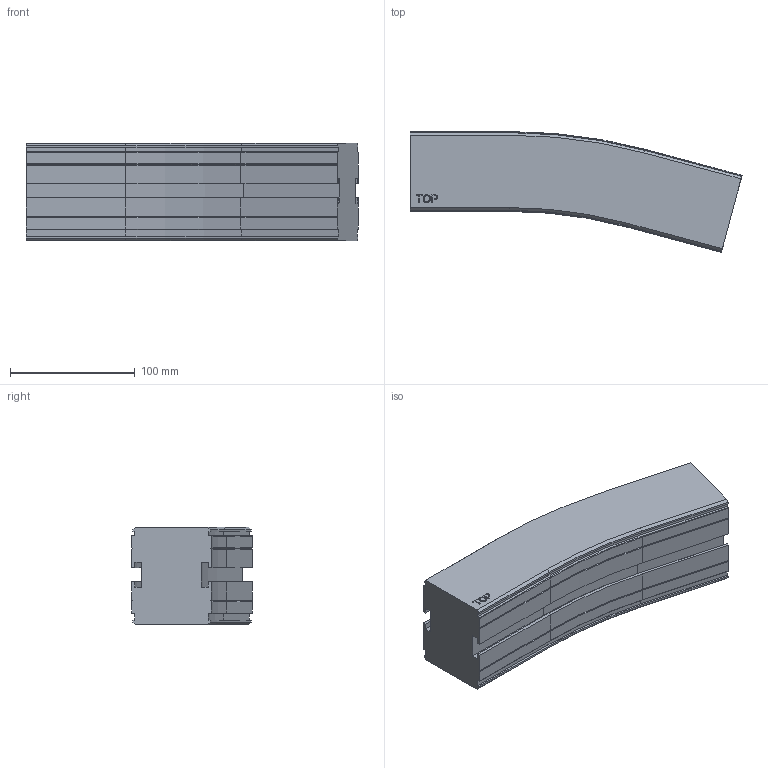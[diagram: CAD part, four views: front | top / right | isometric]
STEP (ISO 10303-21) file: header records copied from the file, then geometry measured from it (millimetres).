
FILE_DESCRIPTION((''),'2;1');
FILE_NAME('C:\Vault Klient\Projekt\Koncept konstruktion\Serie 620 Balk\620-5230.stp','2009-11-26T15:03:51',('Mathias'),(''),'Autodesk Inventor 2010','Autodesk Inventor 2010','');
FILE_SCHEMA(('AUTOMOTIVE_DESIGN { 1 0 10303 214 1 1 1 1 }'));
Length unit declared in the file: millimetre
Products named in the file (1): 620-5230
Bounding box: 266.24 x 96.87 x 78 mm (x, y, z)
Volume: 1217666.9 mm3; surface area: 103705.9 mm2
Topology: 1 solids, 1 shells, 169 faces, 446 edges, 284 vertices
Faces by surface type: plane 109, cylinder 30, bspline 14, cone 12, torus 4
Entity records: 5295 total; most frequent: CARTESIAN_POINT 1094, ORIENTED_EDGE 892, DIRECTION 802, EDGE_CURVE 446, VECTOR 346, LINE 346, VERTEX_POINT 284, AXIS2_PLACEMENT_3D 228
